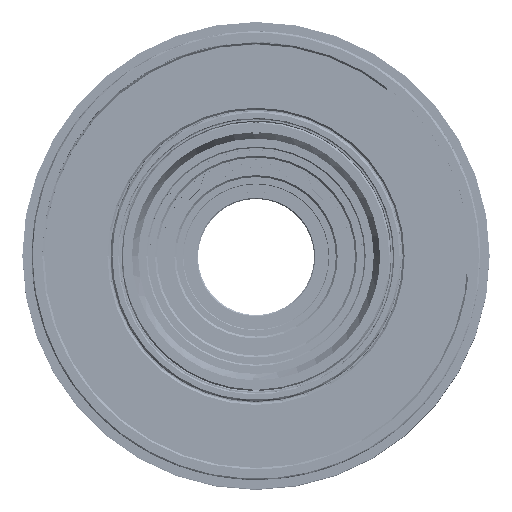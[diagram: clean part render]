
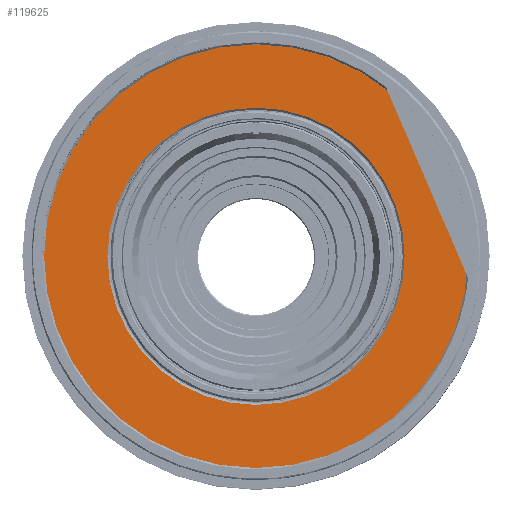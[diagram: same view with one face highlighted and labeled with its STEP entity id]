
A CAD part, top view. The second image highlights one B-rep face of the part: STEP entity #119625.
In plain terms, the highlighted planar face has unit normal (0, 0, 1).
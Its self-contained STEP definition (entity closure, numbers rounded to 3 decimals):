
#1369 = EDGE_CURVE ( 'NONE', #30791, #15854, #47069, .T. ) ;
#1761 = CARTESIAN_POINT ( 'NONE',  ( 34.012, 0., -18.449 ) ) ;
#7021 = ORIENTED_EDGE ( 'NONE', *, *, #1369, .F. ) ;
#11621 = DIRECTION ( 'NONE',  ( -1., 0., 0. ) ) ;
#12631 = CIRCLE ( 'NONE', #139754, 23.85 ) ;
#12917 = EDGE_LOOP ( 'NONE', ( #69508, #37401 ) ) ;
#13969 = AXIS2_PLACEMENT_3D ( 'NONE', #48595, #102556, #27236 ) ;
#15854 = VERTEX_POINT ( 'NONE', #97606 ) ;
#16678 = DIRECTION ( 'NONE',  ( -1., 0., 0. ) ) ;
#18149 = FACE_OUTER_BOUND ( 'NONE', #127942, .T. ) ;
#20839 = DIRECTION ( 'NONE',  ( -1., 0., 0. ) ) ;
#21685 = CIRCLE ( 'NONE', #13969, 23.85 ) ;
#27236 = DIRECTION ( 'NONE',  ( 1., 0., 0. ) ) ;
#28521 = DIRECTION ( 'NONE',  ( 1., 0., 0. ) ) ;
#30791 = VERTEX_POINT ( 'NONE', #1761 ) ;
#32777 = ORIENTED_EDGE ( 'NONE', *, *, #118653, .F. ) ;
#36955 = CIRCLE ( 'NONE', #106485, 34.012 ) ;
#37401 = ORIENTED_EDGE ( 'NONE', *, *, #137187, .F. ) ;
#47069 = CIRCLE ( 'NONE', #104409, 34.012 ) ;
#48595 = CARTESIAN_POINT ( 'NONE',  ( 0., 0., -18.449 ) ) ;
#51116 = AXIS2_PLACEMENT_3D ( 'NONE', #74877, #85757, #20839 ) ;
#51167 = CARTESIAN_POINT ( 'NONE',  ( 23.85, 0., -18.449 ) ) ;
#58383 = DIRECTION ( 'NONE',  ( 0., 0., -1. ) ) ;
#68129 = VERTEX_POINT ( 'NONE', #75796 ) ;
#69508 = ORIENTED_EDGE ( 'NONE', *, *, #122734, .F. ) ;
#70244 = DIRECTION ( 'NONE',  ( 0., 0., 1. ) ) ;
#74877 = CARTESIAN_POINT ( 'NONE',  ( 34.42, -34.42, -18.449 ) ) ;
#75796 = CARTESIAN_POINT ( 'NONE',  ( -23.85, 0., -18.449 ) ) ;
#85757 = DIRECTION ( 'NONE',  ( 0., 0., -1. ) ) ;
#96181 = PLANE ( 'NONE',  #51116 ) ;
#97606 = CARTESIAN_POINT ( 'NONE',  ( -34.012, 0., -18.449 ) ) ;
#99582 = FACE_BOUND ( 'NONE', #12917, .T. ) ;
#102556 = DIRECTION ( 'NONE',  ( 0., 0., 1. ) ) ;
#104409 = AXIS2_PLACEMENT_3D ( 'NONE', #134719, #58383, #16678 ) ;
#106485 = AXIS2_PLACEMENT_3D ( 'NONE', #130092, #121040, #11621 ) ;
#114760 = CARTESIAN_POINT ( 'NONE',  ( 0., 0., -18.449 ) ) ;
#118634 = VERTEX_POINT ( 'NONE', #51167 ) ;
#118653 = EDGE_CURVE ( 'NONE', #15854, #30791, #36955, .T. ) ;
#119625 = ADVANCED_FACE ( 'NONE', ( #99582, #18149 ), #96181, .F. ) ;
#121040 = DIRECTION ( 'NONE',  ( 0., 0., -1. ) ) ;
#122734 = EDGE_CURVE ( 'NONE', #118634, #68129, #21685, .T. ) ;
#127942 = EDGE_LOOP ( 'NONE', ( #32777, #7021 ) ) ;
#130092 = CARTESIAN_POINT ( 'NONE',  ( 0., 0., -18.449 ) ) ;
#134719 = CARTESIAN_POINT ( 'NONE',  ( 0., 0., -18.449 ) ) ;
#137187 = EDGE_CURVE ( 'NONE', #68129, #118634, #12631, .T. ) ;
#139754 = AXIS2_PLACEMENT_3D ( 'NONE', #114760, #70244, #28521 ) ;
